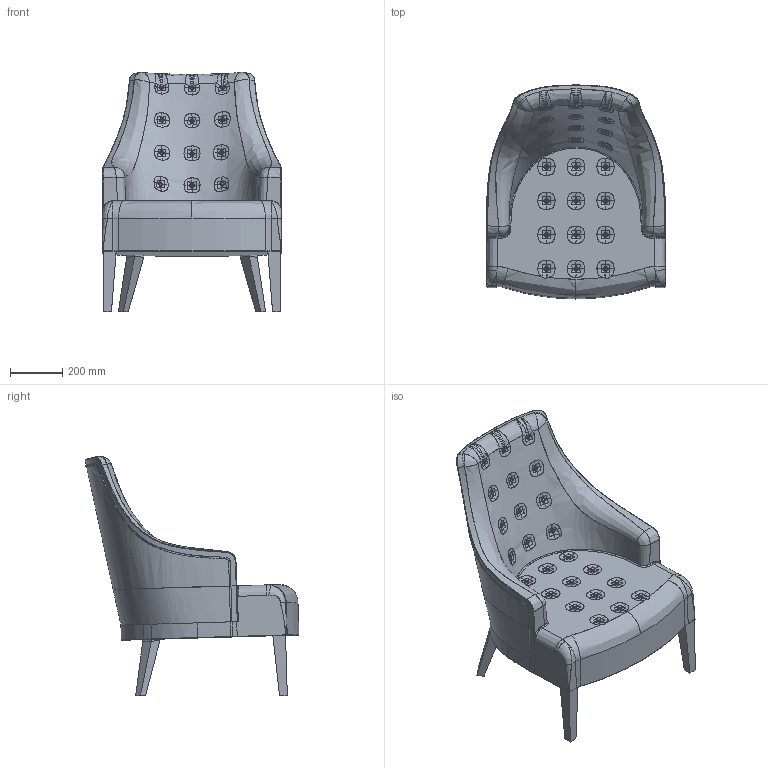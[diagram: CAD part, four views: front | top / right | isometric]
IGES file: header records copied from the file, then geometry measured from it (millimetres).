
Start section: SolidWorks IGES file using analytic representation for surfaces
Global section: file name: C:\Users\Adao\Documents\Trab Adao\Desenho técnico PRODUÇÃO\J M S\HANNA\HANNA (3D)\Poltrona HANNA M-607.IGS; native system: SolidWorks 2012; preprocessor: SolidWorks 2012; author: Adao; date: 121219.141724; units: millimetre
Bounding box: 687.69 x 817.23 x 915.39 mm (x, y, z)
Surface area: 2161617.1 mm2 (no closed solid volume)
Topology: 0 solids, 0 shells, 630 faces, 16911 edges, 16862 vertices
Faces by surface type: bspline 552, revolution 78
